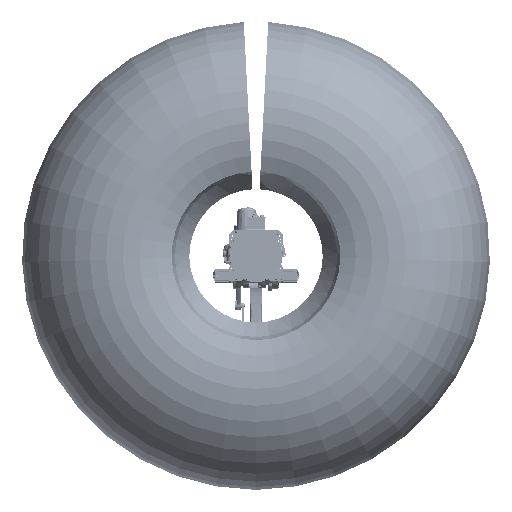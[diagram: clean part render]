
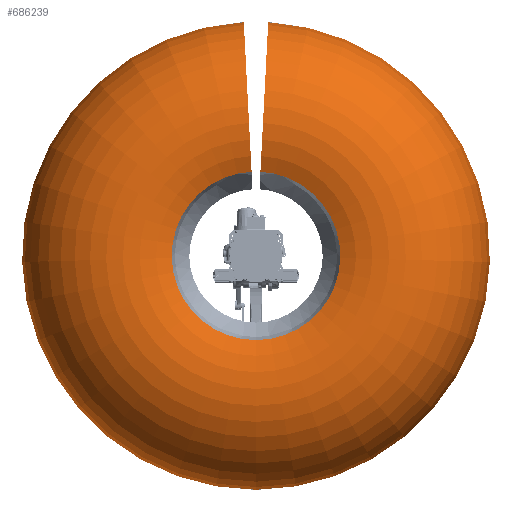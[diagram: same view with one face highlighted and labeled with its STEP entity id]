
A CAD part, front view. The second image highlights one B-rep face of the part: STEP entity #686239.
In plain terms, the highlighted toroidal (fillet/blend) face has major radius 1763 mm and minor radius 1394 mm.
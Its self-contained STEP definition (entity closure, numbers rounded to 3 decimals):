
#685997=CARTESIAN_POINT('',(-92.268,472.44,
1760.585));
#685998=DIRECTION('',(-0.999,0.,-0.052));
#685999=DIRECTION('',(0.024,-0.893,-0.449));
#686000=AXIS2_PLACEMENT_3D('',#685997,#685998,#685999);
#686032=CARTESIAN_POINT('',(0.,358.012,0.));
#686033=DIRECTION('',(0.,-1.,0.));
#686034=DIRECTION('',(-0.052,0.,0.999));
#686035=AXIS2_PLACEMENT_3D('',#686032,#686033,#686034);
#686037=CARTESIAN_POINT('',(0.,-772.425,0.));
#686038=DIRECTION('',(0.,-1.,0.));
#686039=DIRECTION('',(-0.052,0.,0.999));
#686040=AXIS2_PLACEMENT_3D('',#686037,#686038,#686039);
#686067=CARTESIAN_POINT('',(92.268,472.44,
1760.585));
#686068=DIRECTION('',(-0.999,0.,0.052));
#686069=DIRECTION('',(-0.024,-0.893,
-0.449));
#686070=AXIS2_PLACEMENT_3D('',#686067,#686068,#686069);
#686081=CARTESIAN_POINT('',(-59.436,-772.425,
1134.111));
#686082=VERTEX_POINT('',#686081);
#686083=CARTESIAN_POINT('',(-164.978,358.012,
3147.977));
#686084=VERTEX_POINT('',#686083);
#686093=CARTESIAN_POINT('',(59.436,-772.425,
1134.111));
#686094=VERTEX_POINT('',#686093);
#686095=CARTESIAN_POINT('',(164.978,358.012,
3147.977));
#686096=VERTEX_POINT('',#686095);
#686226=CARTESIAN_POINT('',(0.,472.44,0.));
#686227=DIRECTION('',(0.,-1.,0.));
#686228=DIRECTION('',(0.052,0.,-0.999));
#686229=AXIS2_PLACEMENT_3D('',#686226,#686227,#686228);
#686230=TOROIDAL_SURFACE('',#686229,1763.001,1394.);
#686231=ORIENTED_EDGE('',*,*,#686110,.F.);
#686233=ORIENTED_EDGE('',*,*,#686232,.T.);
#686235=ORIENTED_EDGE('',*,*,#686234,.T.);
#686236=ORIENTED_EDGE('',*,*,#686218,.F.);
#686237=EDGE_LOOP('',(#686231,#686233,#686235,#686236));
#686238=FACE_OUTER_BOUND('',#686237,.F.);
#686239=ADVANCED_FACE('',(#686238),#686230,.T.);
#686001=CIRCLE('',#686000,1394.);
#686036=CIRCLE('',#686035,3152.297);
#686041=CIRCLE('',#686040,1135.667);
#686071=CIRCLE('',#686070,1394.);
#686110=EDGE_CURVE('',#686082,#686084,#686001,.T.);
#686218=EDGE_CURVE('',#686084,#686096,#686036,.T.);
#686232=EDGE_CURVE('',#686082,#686094,#686041,.T.);
#686234=EDGE_CURVE('',#686094,#686096,#686071,.T.);
